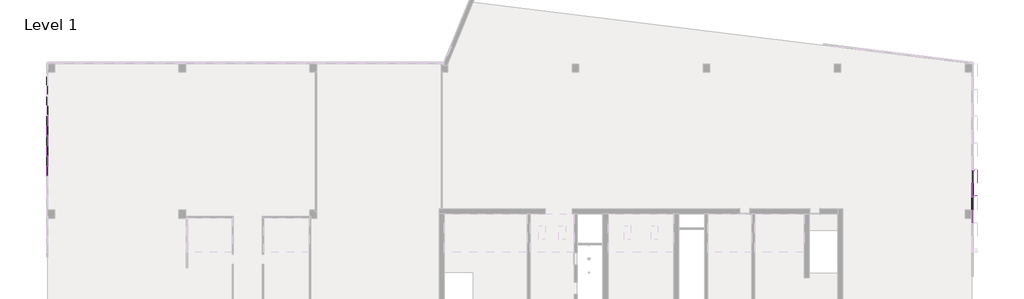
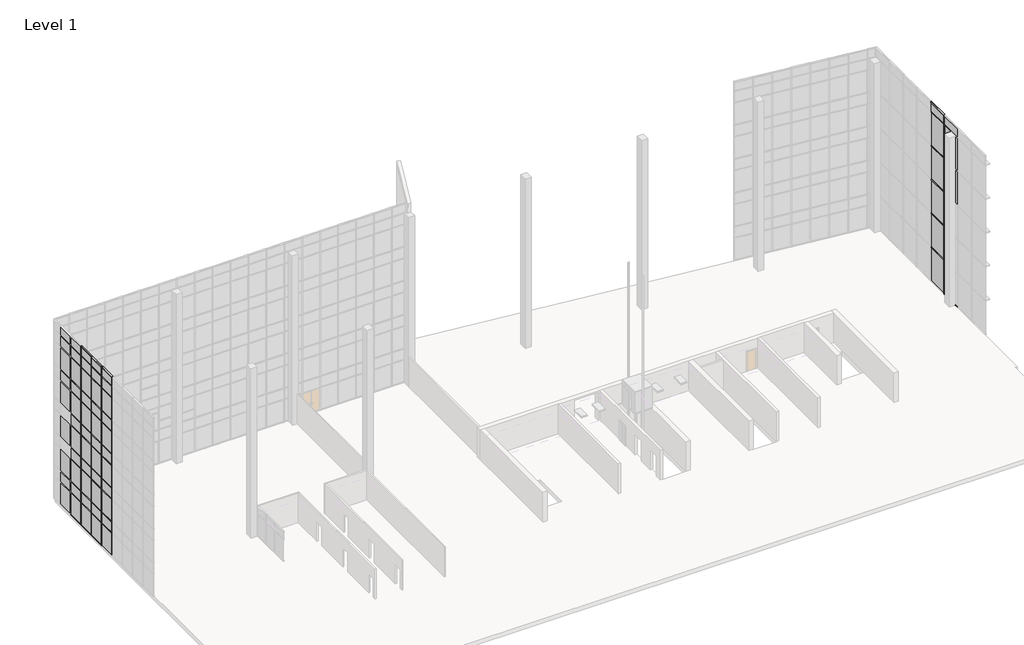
# One storey, part 9 of 23: 67 members, 62 plates.
"""IFC4 building model written with IfcOpenShell, lengths in millimetres."""

from ifc_helpers import new_model, si_unit, origin, place, context, project, spatial, transform, mapped, element, save
from components import member_4178592a, member_a26b4311, member_f92b8aa2, member_810865a4, member_6d5c3e5e, member_90793d7c, member_64b167af, member_9764dd38, system_panel_glazed_14c75400, system_panel_glazed_bb983545, system_panel_solid_5dfe6f83, system_panel_solid_e25e2004, system_panel_solid_b7551183, system_panel_solid_a8b18003

model = new_model("IFC4")

# Units and contexts
model_context = context("Model", 3, world=origin())
ifc_project = project(units=[si_unit("LENGTHUNIT", "METRE", prefix="MILLI")], contexts=[model_context])

# Site, building, storey
site = spatial("IfcSite", under=ifc_project)
building = spatial("IfcBuilding", under=site)
storey = spatial("IfcBuildingStorey", under=building, Name="Level 1", Elevation=0.0)

# Members
placement = place(None, origin())
member_shape = member_4178592a(model_context)
element("IfcMember", 1, ObjectType="Quad Corner Mullion : 5\" x 5\" Quad Corner", at=placement, inside=storey, context=model_context, shape_type="MappedRepresentation", body=[
    mapped(member_shape, transform((15106.8054088, -2083.3335112, 19304.0), x_axis=(0.0, 0.0, 1.0), y_axis=(-1.0, 0.0, 0.0), z_axis=(0.0, -1.0, 0.0))),
])
element("IfcMember", 2, ObjectType="Quad Corner Mullion : 5\" x 5\" Quad Corner", at=placement, inside=storey, context=model_context, shape_type="MappedRepresentation", body=[
    mapped(member_shape, transform((15106.8054088, -2146.8335112, 0.0), x_axis=(0.0, 0.0, -1.0), y_axis=(-1.0, 0.0, 0.0), z_axis=(0.0, 1.0, 0.0))),
])
member_2_shape = member_a26b4311(model_context)
element("IfcMember", 3, ObjectType="Rectangular Mullion : 2.5\" x 18\" rectangular", at=placement, inside=storey, context=model_context, shape_type="MappedRepresentation", body=[
    mapped(member_2_shape, transform((15106.8054088, -2083.3335112, 3666.6228811), x_axis=(0.0, 0.0, 1.0), y_axis=(-1.0, 0.0, 0.0), z_axis=(0.0, -1.0, 0.0))),
])
element("IfcMember", 4, ObjectType="Rectangular Mullion : 2.5\" x 18\" rectangular", at=placement, inside=storey, context=model_context, shape_type="MappedRepresentation", body=[
    mapped(member_2_shape, transform((15106.8054088, -2083.3335112, 7324.2228811), x_axis=(0.0, 0.0, 1.0), y_axis=(-1.0, 0.0, 0.0), z_axis=(0.0, -1.0, 0.0))),
])
element("IfcMember", 5, ObjectType="Rectangular Mullion : 2.5\" x 18\" rectangular", at=placement, inside=storey, context=model_context, shape_type="MappedRepresentation", body=[
    mapped(member_2_shape, transform((15106.8054088, -2083.3335112, 10981.8228811), x_axis=(0.0, 0.0, 1.0), y_axis=(-1.0, 0.0, 0.0), z_axis=(0.0, -1.0, 0.0))),
])
element("IfcMember", 6, ObjectType="Rectangular Mullion : 2.5\" x 18\" rectangular", at=placement, inside=storey, context=model_context, shape_type="MappedRepresentation", body=[
    mapped(member_2_shape, transform((15106.8054088, -2083.3335112, 14639.4228811), x_axis=(0.0, 0.0, 1.0), y_axis=(-1.0, 0.0, 0.0), z_axis=(0.0, -1.0, 0.0))),
])
element("IfcMember", 7, ObjectType="Rectangular Mullion : 2.5\" x 18\" rectangular", at=placement, inside=storey, context=model_context, shape_type="MappedRepresentation", body=[
    mapped(member_2_shape, transform((15106.8054088, -2083.3335112, 18297.0228811), x_axis=(0.0, 0.0, 1.0), y_axis=(-1.0, 0.0, 0.0), z_axis=(0.0, -1.0, 0.0))),
])
member_3_shape = member_f92b8aa2(model_context)
element("IfcMember", 8, ObjectType="Rectangular Mullion : 2.5\" x 5\" rectangular", at=placement, inside=storey, context=model_context, shape_type="MappedRepresentation", body=[
    mapped(member_3_shape, transform((-68724.2599961, 1546.8896508, 18288.0), x_axis=(0.0, 1.0, 0.0), y_axis=(1.0, 0.0, 0.0), z_axis=(0.0, 0.0, -1.0))),
])
element("IfcMember", 9, ObjectType="Rectangular Mullion : 2.5\" x 5\" rectangular", at=placement, inside=storey, context=model_context, shape_type="MappedRepresentation", body=[
    mapped(member_3_shape, transform((-68724.2599961, 3375.6896508, 18288.0), x_axis=(0.0, 1.0, 0.0), y_axis=(1.0, 0.0, 0.0), z_axis=(0.0, 0.0, -1.0))),
])
element("IfcMember", 10, ObjectType="Rectangular Mullion : 2.5\" x 5\" rectangular", at=placement, inside=storey, context=model_context, shape_type="MappedRepresentation", body=[
    mapped(member_3_shape, transform((-68724.2599961, 5204.4896508, 18288.0), x_axis=(0.0, 1.0, 0.0), y_axis=(1.0, 0.0, 0.0), z_axis=(0.0, 0.0, -1.0))),
])
member_4_shape = member_810865a4(model_context)
element("IfcMember", 11, ObjectType="Rectangular Mullion : 2.5\" x 5\" rectangular", at=placement, inside=storey, context=model_context, shape_type="MappedRepresentation", body=[
    mapped(member_4_shape, transform((15106.8054088, -2115.0835112, 3666.6228811), x_axis=(0.0, -1.0, 0.0), y_axis=(-1.0, 0.0, 0.0), z_axis=(0.0, 0.0, -1.0))),
])
element("IfcMember", 12, ObjectType="Rectangular Mullion : 2.5\" x 5\" rectangular", at=placement, inside=storey, context=model_context, shape_type="MappedRepresentation", body=[
    mapped(member_4_shape, transform((15106.8054088, -2115.0835112, 7324.2228811), x_axis=(0.0, -1.0, 0.0), y_axis=(-1.0, 0.0, 0.0), z_axis=(0.0, 0.0, -1.0))),
])
element("IfcMember", 13, ObjectType="Rectangular Mullion : 2.5\" x 5\" rectangular", at=placement, inside=storey, context=model_context, shape_type="MappedRepresentation", body=[
    mapped(member_4_shape, transform((15106.8054088, -2115.0835112, 10981.8228811), x_axis=(0.0, -1.0, 0.0), y_axis=(-1.0, 0.0, 0.0), z_axis=(0.0, 0.0, -1.0))),
])
element("IfcMember", 14, ObjectType="Rectangular Mullion : 2.5\" x 5\" rectangular", at=placement, inside=storey, context=model_context, shape_type="MappedRepresentation", body=[
    mapped(member_4_shape, transform((15106.8054088, -2115.0835112, 14639.4228811), x_axis=(0.0, -1.0, 0.0), y_axis=(-1.0, 0.0, 0.0), z_axis=(0.0, 0.0, -1.0))),
])
element("IfcMember", 15, ObjectType="Rectangular Mullion : 2.5\" x 5\" rectangular", at=placement, inside=storey, context=model_context, shape_type="MappedRepresentation", body=[
    mapped(member_4_shape, transform((-68724.2599961, 1546.8896508, 3657.6), x_axis=(0.0, 1.0, 0.0), y_axis=(1.0, 0.0, 0.0), z_axis=(0.0, 0.0, -1.0))),
])
element("IfcMember", 16, ObjectType="Rectangular Mullion : 2.5\" x 5\" rectangular", at=placement, inside=storey, context=model_context, shape_type="MappedRepresentation", body=[
    mapped(member_4_shape, transform((-68724.2599961, 3375.6896508, 3657.6), x_axis=(0.0, 1.0, 0.0), y_axis=(1.0, 0.0, 0.0), z_axis=(0.0, 0.0, -1.0))),
])
element("IfcMember", 17, ObjectType="Rectangular Mullion : 2.5\" x 5\" rectangular", at=placement, inside=storey, context=model_context, shape_type="MappedRepresentation", body=[
    mapped(member_4_shape, transform((-68724.2599961, 5204.4896508, 3657.6), x_axis=(0.0, 1.0, 0.0), y_axis=(1.0, 0.0, 0.0), z_axis=(0.0, 0.0, -1.0))),
])
element("IfcMember", 18, ObjectType="Rectangular Mullion : 2.5\" x 5\" rectangular", at=placement, inside=storey, context=model_context, shape_type="MappedRepresentation", body=[
    mapped(member_4_shape, transform((-68724.2599961, 1546.8896508, 7315.2), x_axis=(0.0, 1.0, 0.0), y_axis=(1.0, 0.0, 0.0), z_axis=(0.0, 0.0, -1.0))),
])
element("IfcMember", 19, ObjectType="Rectangular Mullion : 2.5\" x 5\" rectangular", at=placement, inside=storey, context=model_context, shape_type="MappedRepresentation", body=[
    mapped(member_4_shape, transform((-68724.2599961, 3375.6896508, 7315.2), x_axis=(0.0, 1.0, 0.0), y_axis=(1.0, 0.0, 0.0), z_axis=(0.0, 0.0, -1.0))),
])
element("IfcMember", 20, ObjectType="Rectangular Mullion : 2.5\" x 5\" rectangular", at=placement, inside=storey, context=model_context, shape_type="MappedRepresentation", body=[
    mapped(member_4_shape, transform((-68724.2599961, 5204.4896508, 7315.2), x_axis=(0.0, 1.0, 0.0), y_axis=(1.0, 0.0, 0.0), z_axis=(0.0, 0.0, -1.0))),
])
element("IfcMember", 21, ObjectType="Rectangular Mullion : 2.5\" x 5\" rectangular", at=placement, inside=storey, context=model_context, shape_type="MappedRepresentation", body=[
    mapped(member_4_shape, transform((-68724.2599961, 1546.8896508, 10972.8), x_axis=(0.0, 1.0, 0.0), y_axis=(1.0, 0.0, 0.0), z_axis=(0.0, 0.0, -1.0))),
])
element("IfcMember", 22, ObjectType="Rectangular Mullion : 2.5\" x 5\" rectangular", at=placement, inside=storey, context=model_context, shape_type="MappedRepresentation", body=[
    mapped(member_4_shape, transform((-68724.2599961, 3375.6896508, 10972.8), x_axis=(0.0, 1.0, 0.0), y_axis=(1.0, 0.0, 0.0), z_axis=(0.0, 0.0, -1.0))),
])
element("IfcMember", 23, ObjectType="Rectangular Mullion : 2.5\" x 5\" rectangular", at=placement, inside=storey, context=model_context, shape_type="MappedRepresentation", body=[
    mapped(member_4_shape, transform((-68724.2599961, 5204.4896508, 10972.8), x_axis=(0.0, 1.0, 0.0), y_axis=(1.0, 0.0, 0.0), z_axis=(0.0, 0.0, -1.0))),
])
element("IfcMember", 24, ObjectType="Rectangular Mullion : 2.5\" x 5\" rectangular", at=placement, inside=storey, context=model_context, shape_type="MappedRepresentation", body=[
    mapped(member_4_shape, transform((-68724.2599961, 1546.8896508, 14630.4), x_axis=(0.0, 1.0, 0.0), y_axis=(1.0, 0.0, 0.0), z_axis=(0.0, 0.0, -1.0))),
])
element("IfcMember", 25, ObjectType="Rectangular Mullion : 2.5\" x 5\" rectangular", at=placement, inside=storey, context=model_context, shape_type="MappedRepresentation", body=[
    mapped(member_4_shape, transform((-68724.2599961, 3375.6896508, 14630.4), x_axis=(0.0, 1.0, 0.0), y_axis=(1.0, 0.0, 0.0), z_axis=(0.0, 0.0, -1.0))),
])
element("IfcMember", 26, ObjectType="Rectangular Mullion : 2.5\" x 5\" rectangular", at=placement, inside=storey, context=model_context, shape_type="MappedRepresentation", body=[
    mapped(member_4_shape, transform((-68724.2599961, 5204.4896508, 14630.4), x_axis=(0.0, 1.0, 0.0), y_axis=(1.0, 0.0, 0.0), z_axis=(0.0, 0.0, -1.0))),
])
member_5_shape = member_6d5c3e5e(model_context)
element("IfcMember", 27, ObjectType="Rectangular Mullion : 2.5\" x 5\" rectangular", at=placement, inside=storey, context=model_context, shape_type="MappedRepresentation", body=[
    mapped(member_5_shape, transform((-68724.2599961, 1515.1396508, 19304.0), x_axis=(0.0, 0.0, 1.0), y_axis=(1.0, 0.0, 0.0), z_axis=(0.0, 1.0, 0.0))),
])
element("IfcMember", 28, ObjectType="Rectangular Mullion : 2.5\" x 5\" rectangular", at=placement, inside=storey, context=model_context, shape_type="MappedRepresentation", body=[
    mapped(member_5_shape, transform((-68724.2599961, 3343.9396508, 19304.0), x_axis=(0.0, 0.0, 1.0), y_axis=(1.0, 0.0, 0.0), z_axis=(0.0, 1.0, 0.0))),
])
element("IfcMember", 29, ObjectType="Rectangular Mullion : 2.5\" x 5\" rectangular", at=placement, inside=storey, context=model_context, shape_type="MappedRepresentation", body=[
    mapped(member_5_shape, transform((-68724.2599961, 5172.7396508, 19304.0), x_axis=(0.0, 0.0, 1.0), y_axis=(1.0, 0.0, 0.0), z_axis=(0.0, 1.0, 0.0))),
])
member_6_shape = member_90793d7c(model_context)
element("IfcMember", 30, ObjectType="Rectangular Mullion : 2.5\" x 5\" rectangular", at=placement, inside=storey, context=model_context, shape_type="MappedRepresentation", body=[
    mapped(member_6_shape, transform((15106.8054088, -2115.0835112, 0.0), x_axis=(0.0, -1.0, 0.0), y_axis=(-1.0, 0.0, 0.0), z_axis=(0.0, 0.0, -1.0))),
])
member_7_shape = member_64b167af(model_context)
element("IfcMember", 31, ObjectType="Rectangular Mullion : 2.5\" x 5\" rectangular", at=placement, inside=storey, context=model_context, shape_type="MappedRepresentation", body=[
    mapped(member_7_shape, transform((15106.8054088, -2115.0835112, 18297.0228811), x_axis=(0.0, -1.0, 0.0), y_axis=(-1.0, 0.0, 0.0), z_axis=(0.0, 0.0, -1.0))),
])
member_8_shape = member_9764dd38(model_context)
element("IfcMember", 32, ObjectType="Rectangular Mullion : 2.5\" x 5\" rectangular", at=placement, inside=storey, context=model_context, shape_type="MappedRepresentation", body=[
    mapped(member_8_shape, transform((-68724.2599961, 5172.7396508, 17068.8), x_axis=(0.0, 0.0, 1.0), y_axis=(1.0, 0.0, 0.0), z_axis=(0.0, 1.0, 0.0))),
])
element("IfcMember", 33, ObjectType="Rectangular Mullion : 2.5\" x 5\" rectangular", at=placement, inside=storey, context=model_context, shape_type="MappedRepresentation", body=[
    mapped(member_8_shape, transform((-68724.2599961, 3343.9396508, 17068.8), x_axis=(0.0, 0.0, 1.0), y_axis=(1.0, 0.0, 0.0), z_axis=(0.0, 1.0, 0.0))),
])
element("IfcMember", 34, ObjectType="Rectangular Mullion : 2.5\" x 5\" rectangular", at=placement, inside=storey, context=model_context, shape_type="MappedRepresentation", body=[
    mapped(member_8_shape, transform((-68724.2599961, 1515.1396508, 17068.8), x_axis=(0.0, 0.0, 1.0), y_axis=(1.0, 0.0, 0.0), z_axis=(0.0, 1.0, 0.0))),
])
element("IfcMember", 35, ObjectType="Rectangular Mullion : 2.5\" x 5\" rectangular", at=placement, inside=storey, context=model_context, shape_type="MappedRepresentation", body=[
    mapped(member_8_shape, transform((-68724.2599961, 5172.7396508, 13411.2), x_axis=(0.0, 0.0, 1.0), y_axis=(1.0, 0.0, 0.0), z_axis=(0.0, 1.0, 0.0))),
])
element("IfcMember", 36, ObjectType="Rectangular Mullion : 2.5\" x 5\" rectangular", at=placement, inside=storey, context=model_context, shape_type="MappedRepresentation", body=[
    mapped(member_8_shape, transform((-68724.2599961, 3343.9396508, 13411.2), x_axis=(0.0, 0.0, 1.0), y_axis=(1.0, 0.0, 0.0), z_axis=(0.0, 1.0, 0.0))),
])
element("IfcMember", 37, ObjectType="Rectangular Mullion : 2.5\" x 5\" rectangular", at=placement, inside=storey, context=model_context, shape_type="MappedRepresentation", body=[
    mapped(member_8_shape, transform((-68724.2599961, 1515.1396508, 13411.2), x_axis=(0.0, 0.0, 1.0), y_axis=(1.0, 0.0, 0.0), z_axis=(0.0, 1.0, 0.0))),
])
element("IfcMember", 38, ObjectType="Rectangular Mullion : 2.5\" x 5\" rectangular", at=placement, inside=storey, context=model_context, shape_type="MappedRepresentation", body=[
    mapped(member_8_shape, transform((-68724.2599961, 5172.7396508, 9753.6), x_axis=(0.0, 0.0, 1.0), y_axis=(1.0, 0.0, 0.0), z_axis=(0.0, 1.0, 0.0))),
])
element("IfcMember", 39, ObjectType="Rectangular Mullion : 2.5\" x 5\" rectangular", at=placement, inside=storey, context=model_context, shape_type="MappedRepresentation", body=[
    mapped(member_8_shape, transform((-68724.2599961, 3343.9396508, 9753.6), x_axis=(0.0, 0.0, 1.0), y_axis=(1.0, 0.0, 0.0), z_axis=(0.0, 1.0, 0.0))),
])
element("IfcMember", 40, ObjectType="Rectangular Mullion : 2.5\" x 5\" rectangular", at=placement, inside=storey, context=model_context, shape_type="MappedRepresentation", body=[
    mapped(member_8_shape, transform((-68724.2599961, 1515.1396508, 9753.6), x_axis=(0.0, 0.0, 1.0), y_axis=(1.0, 0.0, 0.0), z_axis=(0.0, 1.0, 0.0))),
])
element("IfcMember", 41, ObjectType="Rectangular Mullion : 2.5\" x 5\" rectangular", at=placement, inside=storey, context=model_context, shape_type="MappedRepresentation", body=[
    mapped(member_8_shape, transform((-68724.2599961, 5172.7396508, 6096.0), x_axis=(0.0, 0.0, 1.0), y_axis=(1.0, 0.0, 0.0), z_axis=(0.0, 1.0, 0.0))),
])
element("IfcMember", 42, ObjectType="Rectangular Mullion : 2.5\" x 5\" rectangular", at=placement, inside=storey, context=model_context, shape_type="MappedRepresentation", body=[
    mapped(member_8_shape, transform((-68724.2599961, 3343.9396508, 6096.0), x_axis=(0.0, 0.0, 1.0), y_axis=(1.0, 0.0, 0.0), z_axis=(0.0, 1.0, 0.0))),
])
element("IfcMember", 43, ObjectType="Rectangular Mullion : 2.5\" x 5\" rectangular", at=placement, inside=storey, context=model_context, shape_type="MappedRepresentation", body=[
    mapped(member_8_shape, transform((-68724.2599961, 1515.1396508, 6096.0), x_axis=(0.0, 0.0, 1.0), y_axis=(1.0, 0.0, 0.0), z_axis=(0.0, 1.0, 0.0))),
])
element("IfcMember", 44, ObjectType="Rectangular Mullion : 2.5\" x 5\" rectangular", at=placement, inside=storey, context=model_context, shape_type="MappedRepresentation", body=[
    mapped(member_8_shape, transform((-68724.2599961, 5172.7396508, 2470.15), x_axis=(0.0, 0.0, 1.0), y_axis=(1.0, 0.0, 0.0), z_axis=(0.0, 1.0, 0.0))),
])
element("IfcMember", 45, ObjectType="Rectangular Mullion : 2.5\" x 5\" rectangular", at=placement, inside=storey, context=model_context, shape_type="MappedRepresentation", body=[
    mapped(member_8_shape, transform((-68724.2599961, 3343.9396508, 2470.15), x_axis=(0.0, 0.0, 1.0), y_axis=(1.0, 0.0, 0.0), z_axis=(0.0, 1.0, 0.0))),
])
element("IfcMember", 46, ObjectType="Rectangular Mullion : 2.5\" x 5\" rectangular", at=placement, inside=storey, context=model_context, shape_type="MappedRepresentation", body=[
    mapped(member_8_shape, transform((-68724.2599961, 1515.1396508, 2470.15), x_axis=(0.0, 0.0, 1.0), y_axis=(1.0, 0.0, 0.0), z_axis=(0.0, 1.0, 0.0))),
])
element("IfcMember", 47, ObjectType="Rectangular Mullion : 2.5\" x 5\" rectangular", at=placement, inside=storey, context=model_context, shape_type="MappedRepresentation", body=[
    mapped(member_4_shape, transform((-68724.2599961, 1546.8896508, 0.0), x_axis=(0.0, 1.0, 0.0), y_axis=(1.0, 0.0, 0.0), z_axis=(0.0, 0.0, -1.0))),
])
element("IfcMember", 48, ObjectType="Rectangular Mullion : 2.5\" x 5\" rectangular", at=placement, inside=storey, context=model_context, shape_type="MappedRepresentation", body=[
    mapped(member_4_shape, transform((-68724.2599961, 3375.6896508, 0.0), x_axis=(0.0, 1.0, 0.0), y_axis=(1.0, 0.0, 0.0), z_axis=(0.0, 0.0, -1.0))),
])
element("IfcMember", 49, ObjectType="Rectangular Mullion : 2.5\" x 5\" rectangular", at=placement, inside=storey, context=model_context, shape_type="MappedRepresentation", body=[
    mapped(member_4_shape, transform((-68724.2599961, 5204.4896508, 0.0), x_axis=(0.0, 1.0, 0.0), y_axis=(1.0, 0.0, 0.0), z_axis=(0.0, 0.0, -1.0))),
])
element("IfcMember", 50, ObjectType="Rectangular Mullion : 2.5\" x 5\" rectangular", at=placement, inside=storey, context=model_context, shape_type="MappedRepresentation", body=[
    mapped(member_5_shape, transform((-68724.2599961, 1578.6396508, 0.0), x_axis=(0.0, 0.0, -1.0), y_axis=(1.0, 0.0, 0.0), z_axis=(0.0, -1.0, 0.0))),
])
element("IfcMember", 51, ObjectType="Rectangular Mullion : 2.5\" x 5\" rectangular", at=placement, inside=storey, context=model_context, shape_type="MappedRepresentation", body=[
    mapped(member_5_shape, transform((-68724.2599961, 3407.4396508, 0.0), x_axis=(0.0, 0.0, -1.0), y_axis=(1.0, 0.0, 0.0), z_axis=(0.0, -1.0, 0.0))),
])
element("IfcMember", 52, ObjectType="Rectangular Mullion : 2.5\" x 5\" rectangular", at=placement, inside=storey, context=model_context, shape_type="MappedRepresentation", body=[
    mapped(member_5_shape, transform((-68724.2599961, 5236.2396508, 0.0), x_axis=(0.0, 0.0, -1.0), y_axis=(1.0, 0.0, 0.0), z_axis=(0.0, -1.0, 0.0))),
])
element("IfcMember", 53, ObjectType="Rectangular Mullion : 2.5\" x 5\" rectangular", at=placement, inside=storey, context=model_context, shape_type="MappedRepresentation", body=[
    mapped(member_8_shape, transform((-68724.2599961, 1515.1396508, 3657.6), x_axis=(0.0, 0.0, 1.0), y_axis=(1.0, 0.0, 0.0), z_axis=(0.0, 1.0, 0.0))),
])
element("IfcMember", 54, ObjectType="Rectangular Mullion : 2.5\" x 5\" rectangular", at=placement, inside=storey, context=model_context, shape_type="MappedRepresentation", body=[
    mapped(member_8_shape, transform((-68724.2599961, 3343.9396508, 3657.6), x_axis=(0.0, 0.0, 1.0), y_axis=(1.0, 0.0, 0.0), z_axis=(0.0, 1.0, 0.0))),
])
element("IfcMember", 55, ObjectType="Rectangular Mullion : 2.5\" x 5\" rectangular", at=placement, inside=storey, context=model_context, shape_type="MappedRepresentation", body=[
    mapped(member_8_shape, transform((-68724.2599961, 5172.7396508, 3657.6), x_axis=(0.0, 0.0, 1.0), y_axis=(1.0, 0.0, 0.0), z_axis=(0.0, 1.0, 0.0))),
])
element("IfcMember", 56, ObjectType="Rectangular Mullion : 2.5\" x 5\" rectangular", at=placement, inside=storey, context=model_context, shape_type="MappedRepresentation", body=[
    mapped(member_8_shape, transform((-68724.2599961, 1515.1396508, 7315.2), x_axis=(0.0, 0.0, 1.0), y_axis=(1.0, 0.0, 0.0), z_axis=(0.0, 1.0, 0.0))),
])
element("IfcMember", 57, ObjectType="Rectangular Mullion : 2.5\" x 5\" rectangular", at=placement, inside=storey, context=model_context, shape_type="MappedRepresentation", body=[
    mapped(member_8_shape, transform((-68724.2599961, 3343.9396508, 7315.2), x_axis=(0.0, 0.0, 1.0), y_axis=(1.0, 0.0, 0.0), z_axis=(0.0, 1.0, 0.0))),
])
element("IfcMember", 58, ObjectType="Rectangular Mullion : 2.5\" x 5\" rectangular", at=placement, inside=storey, context=model_context, shape_type="MappedRepresentation", body=[
    mapped(member_8_shape, transform((-68724.2599961, 5172.7396508, 7315.2), x_axis=(0.0, 0.0, 1.0), y_axis=(1.0, 0.0, 0.0), z_axis=(0.0, 1.0, 0.0))),
])
element("IfcMember", 59, ObjectType="Rectangular Mullion : 2.5\" x 5\" rectangular", at=placement, inside=storey, context=model_context, shape_type="MappedRepresentation", body=[
    mapped(member_8_shape, transform((-68724.2599961, 1515.1396508, 10972.8), x_axis=(0.0, 0.0, 1.0), y_axis=(1.0, 0.0, 0.0), z_axis=(0.0, 1.0, 0.0))),
])
element("IfcMember", 60, ObjectType="Rectangular Mullion : 2.5\" x 5\" rectangular", at=placement, inside=storey, context=model_context, shape_type="MappedRepresentation", body=[
    mapped(member_8_shape, transform((-68724.2599961, 3343.9396508, 10972.8), x_axis=(0.0, 0.0, 1.0), y_axis=(1.0, 0.0, 0.0), z_axis=(0.0, 1.0, 0.0))),
])
element("IfcMember", 61, ObjectType="Rectangular Mullion : 2.5\" x 5\" rectangular", at=placement, inside=storey, context=model_context, shape_type="MappedRepresentation", body=[
    mapped(member_8_shape, transform((-68724.2599961, 5172.7396508, 10972.8), x_axis=(0.0, 0.0, 1.0), y_axis=(1.0, 0.0, 0.0), z_axis=(0.0, 1.0, 0.0))),
])
element("IfcMember", 62, ObjectType="Rectangular Mullion : 2.5\" x 5\" rectangular", at=placement, inside=storey, context=model_context, shape_type="MappedRepresentation", body=[
    mapped(member_8_shape, transform((-68724.2599961, 1515.1396508, 14630.4), x_axis=(0.0, 0.0, 1.0), y_axis=(1.0, 0.0, 0.0), z_axis=(0.0, 1.0, 0.0))),
])
element("IfcMember", 63, ObjectType="Rectangular Mullion : 2.5\" x 5\" rectangular", at=placement, inside=storey, context=model_context, shape_type="MappedRepresentation", body=[
    mapped(member_8_shape, transform((-68724.2599961, 3343.9396508, 14630.4), x_axis=(0.0, 0.0, 1.0), y_axis=(1.0, 0.0, 0.0), z_axis=(0.0, 1.0, 0.0))),
])
element("IfcMember", 64, ObjectType="Rectangular Mullion : 2.5\" x 5\" rectangular", at=placement, inside=storey, context=model_context, shape_type="MappedRepresentation", body=[
    mapped(member_8_shape, transform((-68724.2599961, 5172.7396508, 14630.4), x_axis=(0.0, 0.0, 1.0), y_axis=(1.0, 0.0, 0.0), z_axis=(0.0, 1.0, 0.0))),
])
element("IfcMember", 65, ObjectType="Rectangular Mullion : 2.5\" x 5\" rectangular", at=placement, inside=storey, context=model_context, shape_type="MappedRepresentation", body=[
    mapped(member_8_shape, transform((-68724.2599961, 1515.1396508, 18288.0), x_axis=(0.0, 0.0, 1.0), y_axis=(1.0, 0.0, 0.0), z_axis=(0.0, 1.0, 0.0))),
])
element("IfcMember", 66, ObjectType="Rectangular Mullion : 2.5\" x 5\" rectangular", at=placement, inside=storey, context=model_context, shape_type="MappedRepresentation", body=[
    mapped(member_8_shape, transform((-68724.2599961, 3343.9396508, 18288.0), x_axis=(0.0, 0.0, 1.0), y_axis=(1.0, 0.0, 0.0), z_axis=(0.0, 1.0, 0.0))),
])
element("IfcMember", 67, ObjectType="Rectangular Mullion : 2.5\" x 5\" rectangular", at=placement, inside=storey, context=model_context, shape_type="MappedRepresentation", body=[
    mapped(member_8_shape, transform((-68724.2599961, 5172.7396508, 18288.0), x_axis=(0.0, 0.0, 1.0), y_axis=(1.0, 0.0, 0.0), z_axis=(0.0, 1.0, 0.0))),
])

# Plates
system_panel_glazed_shape = system_panel_glazed_14c75400(model_context)
element("IfcPlate", 68, ObjectType="System Panel : Glazed", at=placement, inside=storey, context=model_context, shape_type="MappedRepresentation", body=[
    mapped(system_panel_glazed_shape, transform((-68724.2599961, 7947.6896508, 14662.15), x_axis=(0.0, 1.0, 0.0), y_axis=(-1.0, 0.0, 0.0), z_axis=(0.0, 0.0, 1.0))),
])
element("IfcPlate", 69, ObjectType="System Panel : Glazed", at=placement, inside=storey, context=model_context, shape_type="MappedRepresentation", body=[
    mapped(system_panel_glazed_shape, transform((-68724.2599961, 6118.8896508, 14662.15), x_axis=(0.0, 1.0, 0.0), y_axis=(-1.0, 0.0, 0.0), z_axis=(0.0, 0.0, 1.0))),
])
element("IfcPlate", 70, ObjectType="System Panel : Glazed", at=placement, inside=storey, context=model_context, shape_type="MappedRepresentation", body=[
    mapped(system_panel_glazed_shape, transform((-68724.2599961, 4290.0896508, 14662.15), x_axis=(0.0, 1.0, 0.0), y_axis=(-1.0, 0.0, 0.0), z_axis=(0.0, 0.0, 1.0))),
])
element("IfcPlate", 71, ObjectType="System Panel : Glazed", at=placement, inside=storey, context=model_context, shape_type="MappedRepresentation", body=[
    mapped(system_panel_glazed_shape, transform((-68724.2599961, 2461.2896508, 14662.15), x_axis=(0.0, 1.0, 0.0), y_axis=(-1.0, 0.0, 0.0), z_axis=(0.0, 0.0, 1.0))),
])
element("IfcPlate", 72, ObjectType="System Panel : Glazed", at=placement, inside=storey, context=model_context, shape_type="MappedRepresentation", body=[
    mapped(system_panel_glazed_shape, transform((-68724.2599961, 632.4896508, 14662.15), x_axis=(0.0, 1.0, 0.0), y_axis=(-1.0, 0.0, 0.0), z_axis=(0.0, 0.0, 1.0))),
])
element("IfcPlate", 73, ObjectType="System Panel : Glazed", at=placement, inside=storey, context=model_context, shape_type="MappedRepresentation", body=[
    mapped(system_panel_glazed_shape, transform((-68724.2599961, 7947.6896508, 11004.55), x_axis=(0.0, 1.0, 0.0), y_axis=(-1.0, 0.0, 0.0), z_axis=(0.0, 0.0, 1.0))),
])
element("IfcPlate", 74, ObjectType="System Panel : Glazed", at=placement, inside=storey, context=model_context, shape_type="MappedRepresentation", body=[
    mapped(system_panel_glazed_shape, transform((-68724.2599961, 6118.8896508, 11004.55), x_axis=(0.0, 1.0, 0.0), y_axis=(-1.0, 0.0, 0.0), z_axis=(0.0, 0.0, 1.0))),
])
element("IfcPlate", 75, ObjectType="System Panel : Glazed", at=placement, inside=storey, context=model_context, shape_type="MappedRepresentation", body=[
    mapped(system_panel_glazed_shape, transform((-68724.2599961, 4290.0896508, 11004.55), x_axis=(0.0, 1.0, 0.0), y_axis=(-1.0, 0.0, 0.0), z_axis=(0.0, 0.0, 1.0))),
])
element("IfcPlate", 76, ObjectType="System Panel : Glazed", at=placement, inside=storey, context=model_context, shape_type="MappedRepresentation", body=[
    mapped(system_panel_glazed_shape, transform((-68724.2599961, 2461.2896508, 11004.55), x_axis=(0.0, 1.0, 0.0), y_axis=(-1.0, 0.0, 0.0), z_axis=(0.0, 0.0, 1.0))),
])
element("IfcPlate", 77, ObjectType="System Panel : Glazed", at=placement, inside=storey, context=model_context, shape_type="MappedRepresentation", body=[
    mapped(system_panel_glazed_shape, transform((-68724.2599961, 632.4896508, 11004.55), x_axis=(0.0, 1.0, 0.0), y_axis=(-1.0, 0.0, 0.0), z_axis=(0.0, 0.0, 1.0))),
])
element("IfcPlate", 78, ObjectType="System Panel : Glazed", at=placement, inside=storey, context=model_context, shape_type="MappedRepresentation", body=[
    mapped(system_panel_glazed_shape, transform((-68724.2599961, 7947.6896508, 7346.95), x_axis=(0.0, 1.0, 0.0), y_axis=(-1.0, 0.0, 0.0), z_axis=(0.0, 0.0, 1.0))),
])
element("IfcPlate", 79, ObjectType="System Panel : Glazed", at=placement, inside=storey, context=model_context, shape_type="MappedRepresentation", body=[
    mapped(system_panel_glazed_shape, transform((-68724.2599961, 6118.8896508, 7346.95), x_axis=(0.0, 1.0, 0.0), y_axis=(-1.0, 0.0, 0.0), z_axis=(0.0, 0.0, 1.0))),
])
element("IfcPlate", 80, ObjectType="System Panel : Glazed", at=placement, inside=storey, context=model_context, shape_type="MappedRepresentation", body=[
    mapped(system_panel_glazed_shape, transform((-68724.2599961, 4290.0896508, 7346.95), x_axis=(0.0, 1.0, 0.0), y_axis=(-1.0, 0.0, 0.0), z_axis=(0.0, 0.0, 1.0))),
])
element("IfcPlate", 81, ObjectType="System Panel : Glazed", at=placement, inside=storey, context=model_context, shape_type="MappedRepresentation", body=[
    mapped(system_panel_glazed_shape, transform((-68724.2599961, 2461.2896508, 7346.95), x_axis=(0.0, 1.0, 0.0), y_axis=(-1.0, 0.0, 0.0), z_axis=(0.0, 0.0, 1.0))),
])
element("IfcPlate", 82, ObjectType="System Panel : Glazed", at=placement, inside=storey, context=model_context, shape_type="MappedRepresentation", body=[
    mapped(system_panel_glazed_shape, transform((-68724.2599961, 632.4896508, 7346.95), x_axis=(0.0, 1.0, 0.0), y_axis=(-1.0, 0.0, 0.0), z_axis=(0.0, 0.0, 1.0))),
])
element("IfcPlate", 83, ObjectType="System Panel : Glazed", at=placement, inside=storey, context=model_context, shape_type="MappedRepresentation", body=[
    mapped(system_panel_glazed_shape, transform((-68724.2599961, 7947.6896508, 3689.35), x_axis=(0.0, 1.0, 0.0), y_axis=(-1.0, 0.0, 0.0), z_axis=(0.0, 0.0, 1.0))),
])
element("IfcPlate", 84, ObjectType="System Panel : Glazed", at=placement, inside=storey, context=model_context, shape_type="MappedRepresentation", body=[
    mapped(system_panel_glazed_shape, transform((-68724.2599961, 6118.8896508, 3689.35), x_axis=(0.0, 1.0, 0.0), y_axis=(-1.0, 0.0, 0.0), z_axis=(0.0, 0.0, 1.0))),
])
element("IfcPlate", 85, ObjectType="System Panel : Glazed", at=placement, inside=storey, context=model_context, shape_type="MappedRepresentation", body=[
    mapped(system_panel_glazed_shape, transform((-68724.2599961, 4290.0896508, 3689.35), x_axis=(0.0, 1.0, 0.0), y_axis=(-1.0, 0.0, 0.0), z_axis=(0.0, 0.0, 1.0))),
])
element("IfcPlate", 86, ObjectType="System Panel : Glazed", at=placement, inside=storey, context=model_context, shape_type="MappedRepresentation", body=[
    mapped(system_panel_glazed_shape, transform((-68724.2599961, 2461.2896508, 3689.35), x_axis=(0.0, 1.0, 0.0), y_axis=(-1.0, 0.0, 0.0), z_axis=(0.0, 0.0, 1.0))),
])
element("IfcPlate", 87, ObjectType="System Panel : Glazed", at=placement, inside=storey, context=model_context, shape_type="MappedRepresentation", body=[
    mapped(system_panel_glazed_shape, transform((-68724.2599961, 632.4896508, 3689.35), x_axis=(0.0, 1.0, 0.0), y_axis=(-1.0, 0.0, 0.0), z_axis=(0.0, 0.0, 1.0))),
])
element("IfcPlate", 88, ObjectType="System Panel : Glazed", at=placement, inside=storey, context=model_context, shape_type="MappedRepresentation", body=[
    mapped(system_panel_glazed_shape, transform((-68724.2599961, 7947.6896508, 63.5), x_axis=(0.0, 1.0, 0.0), y_axis=(-1.0, 0.0, 0.0), z_axis=(0.0, 0.0, 1.0))),
])
element("IfcPlate", 89, ObjectType="System Panel : Glazed", at=placement, inside=storey, context=model_context, shape_type="MappedRepresentation", body=[
    mapped(system_panel_glazed_shape, transform((-68724.2599961, 6118.8896508, 63.5), x_axis=(0.0, 1.0, 0.0), y_axis=(-1.0, 0.0, 0.0), z_axis=(0.0, 0.0, 1.0))),
])
element("IfcPlate", 90, ObjectType="System Panel : Glazed", at=placement, inside=storey, context=model_context, shape_type="MappedRepresentation", body=[
    mapped(system_panel_glazed_shape, transform((-68724.2599961, 4290.0896508, 63.5), x_axis=(0.0, 1.0, 0.0), y_axis=(-1.0, 0.0, 0.0), z_axis=(0.0, 0.0, 1.0))),
])
element("IfcPlate", 91, ObjectType="System Panel : Glazed", at=placement, inside=storey, context=model_context, shape_type="MappedRepresentation", body=[
    mapped(system_panel_glazed_shape, transform((-68724.2599961, 2461.2896508, 63.5), x_axis=(0.0, 1.0, 0.0), y_axis=(-1.0, 0.0, 0.0), z_axis=(0.0, 0.0, 1.0))),
])
element("IfcPlate", 92, ObjectType="System Panel : Glazed", at=placement, inside=storey, context=model_context, shape_type="MappedRepresentation", body=[
    mapped(system_panel_glazed_shape, transform((-68724.2599961, 632.4896508, 63.5), x_axis=(0.0, 1.0, 0.0), y_axis=(-1.0, 0.0, 0.0), z_axis=(0.0, 0.0, 1.0))),
])
system_panel_glazed_2_shape = system_panel_glazed_bb983545(model_context)
element("IfcPlate", 93, ObjectType="System Panel : Glazed", at=placement, inside=storey, context=model_context, shape_type="MappedRepresentation", body=[
    mapped(system_panel_glazed_2_shape, transform((15106.8054088, -906.0045774, 40.7728811), x_axis=(0.0, -1.0, 0.0), y_axis=(1.0, 0.0, 0.0), z_axis=(0.0, 0.0, 1.0))),
])
element("IfcPlate", 94, ObjectType="System Panel : Glazed", at=placement, inside=storey, context=model_context, shape_type="MappedRepresentation", body=[
    mapped(system_panel_glazed_2_shape, transform((15106.8054088, -906.0045774, 3698.3728811), x_axis=(0.0, -1.0, 0.0), y_axis=(1.0, 0.0, 0.0), z_axis=(0.0, 0.0, 1.0))),
])
element("IfcPlate", 95, ObjectType="System Panel : Glazed", at=placement, inside=storey, context=model_context, shape_type="MappedRepresentation", body=[
    mapped(system_panel_glazed_2_shape, transform((15106.8054088, -906.0045774, 7355.9728811), x_axis=(0.0, -1.0, 0.0), y_axis=(1.0, 0.0, 0.0), z_axis=(0.0, 0.0, 1.0))),
])
element("IfcPlate", 96, ObjectType="System Panel : Glazed", at=placement, inside=storey, context=model_context, shape_type="MappedRepresentation", body=[
    mapped(system_panel_glazed_2_shape, transform((15106.8054088, -906.0045774, 11013.5728811), x_axis=(0.0, -1.0, 0.0), y_axis=(1.0, 0.0, 0.0), z_axis=(0.0, 0.0, 1.0))),
])
element("IfcPlate", 97, ObjectType="System Panel : Glazed", at=placement, inside=storey, context=model_context, shape_type="MappedRepresentation", body=[
    mapped(system_panel_glazed_2_shape, transform((15106.8054088, -906.0045774, 14671.1728811), x_axis=(0.0, -1.0, 0.0), y_axis=(1.0, 0.0, 0.0), z_axis=(0.0, 0.0, 1.0))),
])
element("IfcPlate", 98, ObjectType="System Panel : Glazed", at=placement, inside=storey, context=model_context, shape_type="MappedRepresentation", body=[
    mapped(system_panel_glazed_2_shape, transform((15106.8054088, -3324.162445, 11013.5728811), x_axis=(0.0, -1.0, 0.0), y_axis=(1.0, 0.0, 0.0), z_axis=(0.0, 0.0, 1.0))),
])
element("IfcPlate", 99, ObjectType="System Panel : Glazed", at=placement, inside=storey, context=model_context, shape_type="MappedRepresentation", body=[
    mapped(system_panel_glazed_2_shape, transform((15106.8054088, -3324.162445, 14671.1728811), x_axis=(0.0, -1.0, 0.0), y_axis=(1.0, 0.0, 0.0), z_axis=(0.0, 0.0, 1.0))),
])
system_panel_solid_shape = system_panel_solid_5dfe6f83(model_context)
element("IfcPlate", 100, ObjectType="System Panel : Solid", at=placement, inside=storey, context=model_context, shape_type="MappedRepresentation", body=[
    mapped(system_panel_solid_shape, transform((-68724.2599961, 632.4896508, 18319.75), x_axis=(0.0, 1.0, 0.0), y_axis=(-1.0, 0.0, 0.0), z_axis=(0.0, 0.0, 1.0))),
])
element("IfcPlate", 101, ObjectType="System Panel : Solid", at=placement, inside=storey, context=model_context, shape_type="MappedRepresentation", body=[
    mapped(system_panel_solid_shape, transform((-68724.2599961, 2461.2896508, 18319.75), x_axis=(0.0, 1.0, 0.0), y_axis=(-1.0, 0.0, 0.0), z_axis=(0.0, 0.0, 1.0))),
])
element("IfcPlate", 102, ObjectType="System Panel : Solid", at=placement, inside=storey, context=model_context, shape_type="MappedRepresentation", body=[
    mapped(system_panel_solid_shape, transform((-68724.2599961, 4290.0896508, 18319.75), x_axis=(0.0, 1.0, 0.0), y_axis=(-1.0, 0.0, 0.0), z_axis=(0.0, 0.0, 1.0))),
])
element("IfcPlate", 103, ObjectType="System Panel : Solid", at=placement, inside=storey, context=model_context, shape_type="MappedRepresentation", body=[
    mapped(system_panel_solid_shape, transform((-68724.2599961, 6118.8896508, 18319.75), x_axis=(0.0, 1.0, 0.0), y_axis=(-1.0, 0.0, 0.0), z_axis=(0.0, 0.0, 1.0))),
])
element("IfcPlate", 104, ObjectType="System Panel : Solid", at=placement, inside=storey, context=model_context, shape_type="MappedRepresentation", body=[
    mapped(system_panel_solid_shape, transform((-68724.2599961, 7947.6896508, 18319.75), x_axis=(0.0, 1.0, 0.0), y_axis=(-1.0, 0.0, 0.0), z_axis=(0.0, 0.0, 1.0))),
])
system_panel_solid_2_shape = system_panel_solid_e25e2004(model_context)
element("IfcPlate", 105, ObjectType="System Panel : Solid", at=placement, inside=storey, context=model_context, shape_type="MappedRepresentation", body=[
    mapped(system_panel_solid_2_shape, transform((-68724.2599961, 7947.6896508, 17100.55), x_axis=(0.0, 1.0, 0.0), y_axis=(-1.0, 0.0, 0.0), z_axis=(0.0, 0.0, 1.0))),
])
element("IfcPlate", 106, ObjectType="System Panel : Solid", at=placement, inside=storey, context=model_context, shape_type="MappedRepresentation", body=[
    mapped(system_panel_solid_2_shape, transform((-68724.2599961, 6118.8896508, 17100.55), x_axis=(0.0, 1.0, 0.0), y_axis=(-1.0, 0.0, 0.0), z_axis=(0.0, 0.0, 1.0))),
])
element("IfcPlate", 107, ObjectType="System Panel : Solid", at=placement, inside=storey, context=model_context, shape_type="MappedRepresentation", body=[
    mapped(system_panel_solid_2_shape, transform((-68724.2599961, 4290.0896508, 17100.55), x_axis=(0.0, 1.0, 0.0), y_axis=(-1.0, 0.0, 0.0), z_axis=(0.0, 0.0, 1.0))),
])
element("IfcPlate", 108, ObjectType="System Panel : Solid", at=placement, inside=storey, context=model_context, shape_type="MappedRepresentation", body=[
    mapped(system_panel_solid_2_shape, transform((-68724.2599961, 2461.2896508, 17100.55), x_axis=(0.0, 1.0, 0.0), y_axis=(-1.0, 0.0, 0.0), z_axis=(0.0, 0.0, 1.0))),
])
element("IfcPlate", 109, ObjectType="System Panel : Solid", at=placement, inside=storey, context=model_context, shape_type="MappedRepresentation", body=[
    mapped(system_panel_solid_2_shape, transform((-68724.2599961, 632.4896508, 17100.55), x_axis=(0.0, 1.0, 0.0), y_axis=(-1.0, 0.0, 0.0), z_axis=(0.0, 0.0, 1.0))),
])
element("IfcPlate", 110, ObjectType="System Panel : Solid", at=placement, inside=storey, context=model_context, shape_type="MappedRepresentation", body=[
    mapped(system_panel_solid_2_shape, transform((-68724.2599961, 7947.6896508, 13442.95), x_axis=(0.0, 1.0, 0.0), y_axis=(-1.0, 0.0, 0.0), z_axis=(0.0, 0.0, 1.0))),
])
element("IfcPlate", 111, ObjectType="System Panel : Solid", at=placement, inside=storey, context=model_context, shape_type="MappedRepresentation", body=[
    mapped(system_panel_solid_2_shape, transform((-68724.2599961, 6118.8896508, 13442.95), x_axis=(0.0, 1.0, 0.0), y_axis=(-1.0, 0.0, 0.0), z_axis=(0.0, 0.0, 1.0))),
])
element("IfcPlate", 112, ObjectType="System Panel : Solid", at=placement, inside=storey, context=model_context, shape_type="MappedRepresentation", body=[
    mapped(system_panel_solid_2_shape, transform((-68724.2599961, 4290.0896508, 13442.95), x_axis=(0.0, 1.0, 0.0), y_axis=(-1.0, 0.0, 0.0), z_axis=(0.0, 0.0, 1.0))),
])
element("IfcPlate", 113, ObjectType="System Panel : Solid", at=placement, inside=storey, context=model_context, shape_type="MappedRepresentation", body=[
    mapped(system_panel_solid_2_shape, transform((-68724.2599961, 2461.2896508, 13442.95), x_axis=(0.0, 1.0, 0.0), y_axis=(-1.0, 0.0, 0.0), z_axis=(0.0, 0.0, 1.0))),
])
element("IfcPlate", 114, ObjectType="System Panel : Solid", at=placement, inside=storey, context=model_context, shape_type="MappedRepresentation", body=[
    mapped(system_panel_solid_2_shape, transform((-68724.2599961, 632.4896508, 13442.95), x_axis=(0.0, 1.0, 0.0), y_axis=(-1.0, 0.0, 0.0), z_axis=(0.0, 0.0, 1.0))),
])
element("IfcPlate", 115, ObjectType="System Panel : Solid", at=placement, inside=storey, context=model_context, shape_type="MappedRepresentation", body=[
    mapped(system_panel_solid_2_shape, transform((-68724.2599961, 6118.8896508, 9785.35), x_axis=(0.0, 1.0, 0.0), y_axis=(-1.0, 0.0, 0.0), z_axis=(0.0, 0.0, 1.0))),
])
element("IfcPlate", 116, ObjectType="System Panel : Solid", at=placement, inside=storey, context=model_context, shape_type="MappedRepresentation", body=[
    mapped(system_panel_solid_2_shape, transform((-68724.2599961, 4290.0896508, 9785.35), x_axis=(0.0, 1.0, 0.0), y_axis=(-1.0, 0.0, 0.0), z_axis=(0.0, 0.0, 1.0))),
])
element("IfcPlate", 117, ObjectType="System Panel : Solid", at=placement, inside=storey, context=model_context, shape_type="MappedRepresentation", body=[
    mapped(system_panel_solid_2_shape, transform((-68724.2599961, 2461.2896508, 9785.35), x_axis=(0.0, 1.0, 0.0), y_axis=(-1.0, 0.0, 0.0), z_axis=(0.0, 0.0, 1.0))),
])
element("IfcPlate", 118, ObjectType="System Panel : Solid", at=placement, inside=storey, context=model_context, shape_type="MappedRepresentation", body=[
    mapped(system_panel_solid_2_shape, transform((-68724.2599961, 632.4896508, 9785.35), x_axis=(0.0, 1.0, 0.0), y_axis=(-1.0, 0.0, 0.0), z_axis=(0.0, 0.0, 1.0))),
])
element("IfcPlate", 119, ObjectType="System Panel : Solid", at=placement, inside=storey, context=model_context, shape_type="MappedRepresentation", body=[
    mapped(system_panel_solid_2_shape, transform((-68724.2599961, 6118.8896508, 6127.75), x_axis=(0.0, 1.0, 0.0), y_axis=(-1.0, 0.0, 0.0), z_axis=(0.0, 0.0, 1.0))),
])
element("IfcPlate", 120, ObjectType="System Panel : Solid", at=placement, inside=storey, context=model_context, shape_type="MappedRepresentation", body=[
    mapped(system_panel_solid_2_shape, transform((-68724.2599961, 4290.0896508, 6127.75), x_axis=(0.0, 1.0, 0.0), y_axis=(-1.0, 0.0, 0.0), z_axis=(0.0, 0.0, 1.0))),
])
element("IfcPlate", 121, ObjectType="System Panel : Solid", at=placement, inside=storey, context=model_context, shape_type="MappedRepresentation", body=[
    mapped(system_panel_solid_2_shape, transform((-68724.2599961, 2461.2896508, 6127.75), x_axis=(0.0, 1.0, 0.0), y_axis=(-1.0, 0.0, 0.0), z_axis=(0.0, 0.0, 1.0))),
])
element("IfcPlate", 122, ObjectType="System Panel : Solid", at=placement, inside=storey, context=model_context, shape_type="MappedRepresentation", body=[
    mapped(system_panel_solid_2_shape, transform((-68724.2599961, 632.4896508, 6127.75), x_axis=(0.0, 1.0, 0.0), y_axis=(-1.0, 0.0, 0.0), z_axis=(0.0, 0.0, 1.0))),
])
system_panel_solid_3_shape = system_panel_solid_b7551183(model_context)
element("IfcPlate", 123, ObjectType="System Panel : Solid", at=placement, inside=storey, context=model_context, shape_type="MappedRepresentation", body=[
    mapped(system_panel_solid_3_shape, transform((-68724.2599961, 7947.6896508, 2501.9), x_axis=(0.0, 1.0, 0.0), y_axis=(-1.0, 0.0, 0.0), z_axis=(0.0, 0.0, 1.0))),
])
element("IfcPlate", 124, ObjectType="System Panel : Solid", at=placement, inside=storey, context=model_context, shape_type="MappedRepresentation", body=[
    mapped(system_panel_solid_3_shape, transform((-68724.2599961, 6118.8896508, 2501.9), x_axis=(0.0, 1.0, 0.0), y_axis=(-1.0, 0.0, 0.0), z_axis=(0.0, 0.0, 1.0))),
])
element("IfcPlate", 125, ObjectType="System Panel : Solid", at=placement, inside=storey, context=model_context, shape_type="MappedRepresentation", body=[
    mapped(system_panel_solid_3_shape, transform((-68724.2599961, 4290.0896508, 2501.9), x_axis=(0.0, 1.0, 0.0), y_axis=(-1.0, 0.0, 0.0), z_axis=(0.0, 0.0, 1.0))),
])
element("IfcPlate", 126, ObjectType="System Panel : Solid", at=placement, inside=storey, context=model_context, shape_type="MappedRepresentation", body=[
    mapped(system_panel_solid_3_shape, transform((-68724.2599961, 2461.2896508, 2501.9), x_axis=(0.0, 1.0, 0.0), y_axis=(-1.0, 0.0, 0.0), z_axis=(0.0, 0.0, 1.0))),
])
element("IfcPlate", 127, ObjectType="System Panel : Solid", at=placement, inside=storey, context=model_context, shape_type="MappedRepresentation", body=[
    mapped(system_panel_solid_3_shape, transform((-68724.2599961, 632.4896508, 2501.9), x_axis=(0.0, 1.0, 0.0), y_axis=(-1.0, 0.0, 0.0), z_axis=(0.0, 0.0, 1.0))),
])
system_panel_solid_4_shape = system_panel_solid_a8b18003(model_context)
element("IfcPlate", 128, ObjectType="System Panel : Solid", at=placement, inside=storey, context=model_context, shape_type="MappedRepresentation", body=[
    mapped(system_panel_solid_4_shape, transform((15106.8054088, -906.0045774, 18328.7728811), x_axis=(0.0, -1.0, 0.0), y_axis=(1.0, 0.0, 0.0), z_axis=(0.0, 0.0, 1.0))),
])
element("IfcPlate", 129, ObjectType="System Panel : Solid", at=placement, inside=storey, context=model_context, shape_type="MappedRepresentation", body=[
    mapped(system_panel_solid_4_shape, transform((15106.8054088, -3324.162445, 18328.7728811), x_axis=(0.0, -1.0, 0.0), y_axis=(1.0, 0.0, 0.0), z_axis=(0.0, 0.0, 1.0))),
])

save(model, "model.ifc")
